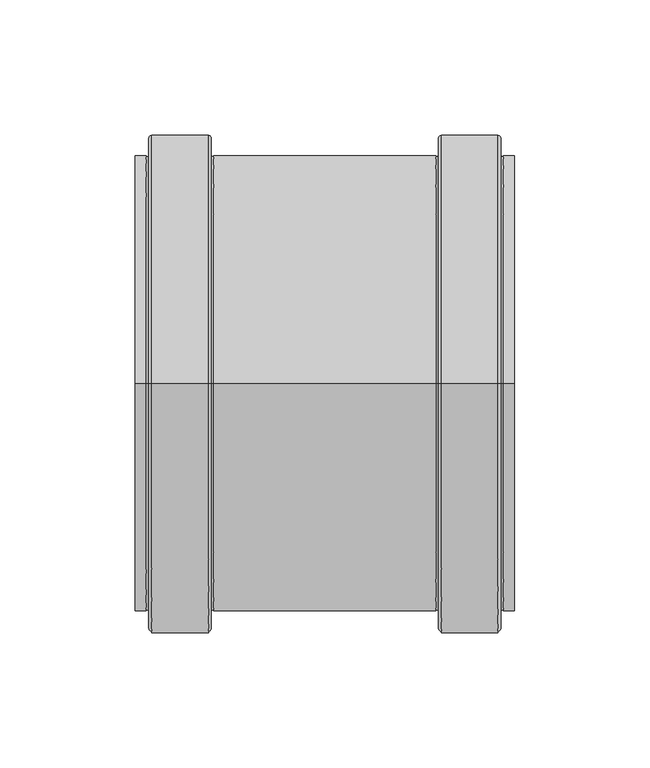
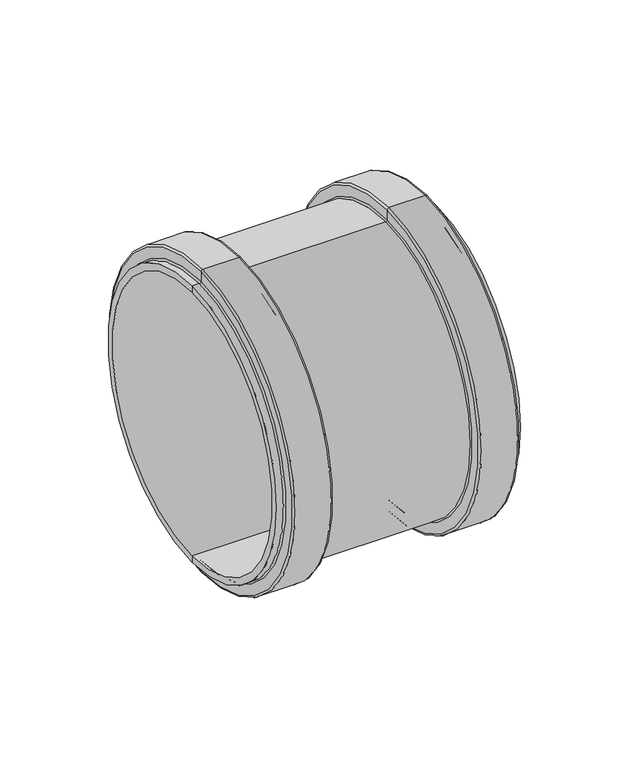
"""IFC4 building model written with IfcOpenShell, lengths in millimetres: pipe fitting geometry, MarleyPlumbingAndDrainage_PipeFitting_dBlueDoubleSocketCoupling_VMD : VMD-160-000-00D - 160mm - Blue."""

from ifc_helpers import new_model, si_unit, point, frame, origin, place, context, project, spatial, polyline, circle_curve, ellipse_curve, trimmed, source, transform, mapped, element, save
from ifc_brep_helpers import plane_surface, cylinder_surface, revolved_surface, advanced_brep


def pipe_fitting_f7358239(model_context):
    return source(origin(), model_context, "Body", "AdvancedBrep", [
        advanced_brep(
        [(-55.8253818, 0.0, -84.0), (-55.8253818, 0.0, 84.0), (26.1746182, 0.0, 84.0), (26.1746182, 0.0, -84.0), (55.1746182, 0.0, -80.0), (55.1746182, 0.0, 80.0), (-84.8253818, 0.0, 80.0), (-84.8253818, 0.0, -80.0), (55.1746182, 0.0, -84.0), (55.1746182, 0.0, 84.0), (51.1746182, 0.0, -84.0), (51.1746182, 0.0, 84.0), (50.1746182, 0.0, -85.0), (50.1746182, 0.0, 85.0), (50.1746182, 0.0, -91.0), (50.1746182, 0.0, 91.0), (49.1746182, 0.0, -92.0), (49.1746182, 0.0, 92.0), (28.1746182, 0.0, -92.0), (28.1746182, 0.0, 92.0), (27.1746182, 0.0, -91.0), (27.1746182, 0.0, 91.0), (27.1746182, 0.0, -85.0), (27.1746182, 0.0, 85.0), (-56.8253818, 0.0, -85.0), (-56.8253818, 0.0, 85.0), (-56.8253818, 0.0, -91.0), (-56.8253818, 0.0, 91.0), (-57.8253818, 0.0, -92.0), (-57.8253818, 0.0, 92.0), (-78.8253818, 0.0, -92.0), (-78.8253818, 0.0, 92.0), (-79.8253818, 0.0, -91.0), (-79.8253818, 0.0, 91.0), (-79.8253818, 0.0, -85.0), (-79.8253818, 0.0, 85.0), (-80.8253818, 0.0, -84.0), (-80.8253818, 0.0, 84.0), (-84.8253818, 0.0, -84.0), (-84.8253818, 0.0, 84.0)],
        [
            (0, 1, circle_curve(frame((-55.8253818, 0.0, 0.0), z_axis=(1.0, 0.0, 0.0), x_axis=(0.0, 0.0, 1.0)), 84.0)),
            (1, 2),
            (2, 3, circle_curve(frame((26.1746182, 0.0, 0.0), z_axis=(-1.0, 0.0, 0.0), x_axis=(0.0, 0.0, 1.0)), 84.0)),
            (3, 0),
            (1, 0, circle_curve(frame((-55.8253818, 0.0, 0.0), z_axis=(1.0, 0.0, 0.0), x_axis=(0.0, 0.0, 1.0)), 84.0)),
            (3, 2, circle_curve(frame((26.1746182, 0.0, 0.0), z_axis=(-1.0, 0.0, 0.0), x_axis=(0.0, 0.0, 1.0)), 84.0)),
            (4, 5, circle_curve(frame((55.1746182, 0.0, 0.0), z_axis=(1.0, 0.0, 0.0), x_axis=(0.0, 0.0, 1.0)), 80.0)),
            (5, 6),
            (6, 7, circle_curve(frame((-84.8253818, 0.0, 0.0), z_axis=(-1.0, 0.0, 0.0), x_axis=(0.0, 0.0, 1.0)), 80.0)),
            (7, 4),
            (5, 4, circle_curve(frame((55.1746182, 0.0, 0.0), z_axis=(1.0, 0.0, 0.0), x_axis=(0.0, 0.0, 1.0)), 80.0)),
            (7, 6, circle_curve(frame((-84.8253818, 0.0, 0.0), z_axis=(-1.0, 0.0, 0.0), x_axis=(0.0, 0.0, 1.0)), 80.0)),
            (8, 9, circle_curve(frame((55.1746182, 0.0, 0.0), z_axis=(1.0, 0.0, 0.0), x_axis=(0.0, 0.0, 1.0)), 84.0)),
            (9, 5),
            (4, 8),
            (9, 8, circle_curve(frame((55.1746182, 0.0, 0.0), z_axis=(1.0, 0.0, 0.0), x_axis=(0.0, 0.0, 1.0)), 84.0)),
            (10, 11, circle_curve(frame((51.1746182, 0.0, 0.0), z_axis=(1.0, 0.0, 0.0), x_axis=(0.0, 0.0, 1.0)), 84.0)),
            (11, 9),
            (8, 10),
            (11, 10, circle_curve(frame((51.1746182, 0.0, 0.0), z_axis=(1.0, 0.0, 0.0), x_axis=(0.0, 0.0, 1.0)), 84.0)),
            (12, 13, circle_curve(frame((50.1746182, 0.0, 0.0), z_axis=(1.0, 0.0, 0.0), x_axis=(0.0, 0.0, 1.0)), 85.0)),
            (13, 11, circle_curve(frame((51.1746182, 0.0, 85.0), z_axis=(0.0, -1.0, 0.0), x_axis=(1.0, 0.0, 0.0)), 1.0)),
            (10, 12, circle_curve(frame((51.1746182, 0.0, -85.0), z_axis=(0.0, -1.0, 0.0), x_axis=(1.0, 0.0, 0.0)), 1.0)),
            (13, 12, circle_curve(frame((50.1746182, 0.0, 0.0), z_axis=(1.0, 0.0, 0.0), x_axis=(0.0, 0.0, 1.0)), 85.0)),
            (14, 15, circle_curve(frame((50.1746182, 0.0, 0.0), z_axis=(1.0, 0.0, 0.0), x_axis=(0.0, 0.0, 1.0)), 91.0)),
            (15, 13),
            (12, 14),
            (15, 14, circle_curve(frame((50.1746182, 0.0, 0.0), z_axis=(1.0, 0.0, 0.0), x_axis=(0.0, 0.0, 1.0)), 91.0)),
            (16, 17, circle_curve(frame((49.1746182, 0.0, 0.0), z_axis=(1.0, 0.0, 0.0), x_axis=(0.0, 0.0, 1.0)), 92.0)),
            (17, 15, circle_curve(frame((49.1746182, 0.0, 91.0), z_axis=(0.0, 1.0, 0.0), x_axis=(1.0, 0.0, 0.0)), 1.0)),
            (14, 16, circle_curve(frame((49.1746182, 0.0, -91.0), z_axis=(0.0, 1.0, 0.0), x_axis=(1.0, 0.0, 0.0)), 1.0)),
            (17, 16, circle_curve(frame((49.1746182, 0.0, 0.0), z_axis=(1.0, 0.0, 0.0), x_axis=(0.0, 0.0, 1.0)), 92.0)),
            (18, 19, circle_curve(frame((28.1746182, 0.0, 0.0), z_axis=(1.0, 0.0, 0.0), x_axis=(0.0, 0.0, 1.0)), 92.0)),
            (19, 17),
            (16, 18),
            (19, 18, circle_curve(frame((28.1746182, 0.0, 0.0), z_axis=(1.0, 0.0, 0.0), x_axis=(0.0, 0.0, 1.0)), 92.0)),
            (20, 21, circle_curve(frame((27.1746182, 0.0, 0.0), z_axis=(1.0, 0.0, 0.0), x_axis=(0.0, 0.0, 1.0)), 91.0)),
            (21, 19, circle_curve(frame((28.1746182, 0.0, 91.0), z_axis=(0.0, 1.0, 0.0), x_axis=(1.0, 0.0, 0.0)), 1.0)),
            (18, 20, circle_curve(frame((28.1746182, 0.0, -91.0), z_axis=(0.0, 1.0, 0.0), x_axis=(1.0, 0.0, 0.0)), 1.0)),
            (21, 20, circle_curve(frame((27.1746182, 0.0, 0.0), z_axis=(1.0, 0.0, 0.0), x_axis=(0.0, 0.0, 1.0)), 91.0)),
            (22, 23, circle_curve(frame((27.1746182, 0.0, 0.0), z_axis=(1.0, 0.0, 0.0), x_axis=(0.0, 0.0, 1.0)), 85.0)),
            (23, 21),
            (20, 22),
            (23, 22, circle_curve(frame((27.1746182, 0.0, 0.0), z_axis=(1.0, 0.0, 0.0), x_axis=(0.0, 0.0, 1.0)), 85.0)),
            (2, 23, circle_curve(frame((26.1746182, 0.0, 85.0), z_axis=(0.0, -1.0, 0.0), x_axis=(1.0, 0.0, 0.0)), 1.0)),
            (22, 3, circle_curve(frame((26.1746182, 0.0, -85.0), z_axis=(0.0, -1.0, 0.0), x_axis=(1.0, 0.0, 0.0)), 1.0)),
            (24, 25, circle_curve(frame((-56.8253818, 0.0, 0.0), z_axis=(1.0, 0.0, 0.0), x_axis=(0.0, 0.0, 1.0)), 85.0)),
            (25, 1, circle_curve(frame((-55.8253818, 0.0, 85.0), z_axis=(0.0, -1.0, 0.0), x_axis=(1.0, 0.0, 0.0)), 1.0)),
            (0, 24, circle_curve(frame((-55.8253818, 0.0, -85.0), z_axis=(0.0, -1.0, 0.0), x_axis=(1.0, 0.0, 0.0)), 1.0)),
            (25, 24, circle_curve(frame((-56.8253818, 0.0, 0.0), z_axis=(1.0, 0.0, 0.0), x_axis=(0.0, 0.0, 1.0)), 85.0)),
            (26, 27, circle_curve(frame((-56.8253818, 0.0, 0.0), z_axis=(1.0, 0.0, 0.0), x_axis=(0.0, 0.0, 1.0)), 91.0)),
            (27, 25),
            (24, 26),
            (27, 26, circle_curve(frame((-56.8253818, 0.0, 0.0), z_axis=(1.0, 0.0, 0.0), x_axis=(0.0, 0.0, 1.0)), 91.0)),
            (28, 29, circle_curve(frame((-57.8253818, 0.0, 0.0), z_axis=(1.0, 0.0, 0.0), x_axis=(0.0, 0.0, 1.0)), 92.0)),
            (29, 27, circle_curve(frame((-57.8253818, 0.0, 91.0), z_axis=(0.0, 1.0, 0.0), x_axis=(1.0, 0.0, 0.0)), 1.0)),
            (26, 28, circle_curve(frame((-57.8253818, 0.0, -91.0), z_axis=(0.0, 1.0, 0.0), x_axis=(1.0, 0.0, 0.0)), 1.0)),
            (29, 28, circle_curve(frame((-57.8253818, 0.0, 0.0), z_axis=(1.0, 0.0, 0.0), x_axis=(0.0, 0.0, 1.0)), 92.0)),
            (30, 31, circle_curve(frame((-78.8253818, 0.0, 0.0), z_axis=(1.0, 0.0, 0.0), x_axis=(0.0, 0.0, 1.0)), 92.0)),
            (31, 29),
            (28, 30),
            (31, 30, circle_curve(frame((-78.8253818, 0.0, 0.0), z_axis=(1.0, 0.0, 0.0), x_axis=(0.0, 0.0, 1.0)), 92.0)),
            (32, 33, circle_curve(frame((-79.8253818, 0.0, 0.0), z_axis=(1.0, 0.0, 0.0), x_axis=(0.0, 0.0, 1.0)), 91.0)),
            (33, 31, circle_curve(frame((-78.8253818, 0.0, 91.0), z_axis=(0.0, 1.0, 0.0), x_axis=(1.0, 0.0, 0.0)), 1.0)),
            (30, 32, circle_curve(frame((-78.8253818, 0.0, -91.0), z_axis=(0.0, 1.0, 0.0), x_axis=(1.0, 0.0, 0.0)), 1.0)),
            (33, 32, circle_curve(frame((-79.8253818, 0.0, 0.0), z_axis=(1.0, 0.0, 0.0), x_axis=(0.0, 0.0, 1.0)), 91.0)),
            (34, 35, circle_curve(frame((-79.8253818, 0.0, 0.0), z_axis=(1.0, 0.0, 0.0), x_axis=(0.0, 0.0, 1.0)), 85.0)),
            (35, 33),
            (32, 34),
            (35, 34, circle_curve(frame((-79.8253818, 0.0, 0.0), z_axis=(1.0, 0.0, 0.0), x_axis=(0.0, 0.0, 1.0)), 85.0)),
            (36, 37, circle_curve(frame((-80.8253818, 0.0, 0.0), z_axis=(1.0, 0.0, 0.0), x_axis=(0.0, 0.0, 1.0)), 84.0)),
            (37, 35, circle_curve(frame((-80.8253818, 0.0, 85.0), z_axis=(0.0, -1.0, 0.0), x_axis=(1.0, 0.0, 0.0)), 1.0)),
            (34, 36, circle_curve(frame((-80.8253818, 0.0, -85.0), z_axis=(0.0, -1.0, 0.0), x_axis=(1.0, 0.0, 0.0)), 1.0)),
            (37, 36, circle_curve(frame((-80.8253818, 0.0, 0.0), z_axis=(1.0, 0.0, 0.0), x_axis=(0.0, 0.0, 1.0)), 84.0)),
            (38, 39, circle_curve(frame((-84.8253818, 0.0, 0.0), z_axis=(1.0, 0.0, 0.0), x_axis=(0.0, 0.0, 1.0)), 84.0)),
            (39, 37),
            (36, 38),
            (39, 38, circle_curve(frame((-84.8253818, 0.0, 0.0), z_axis=(1.0, 0.0, 0.0), x_axis=(0.0, 0.0, 1.0)), 84.0)),
            (6, 39),
            (38, 7),
        ],
        [
            cylinder_surface(frame((-1222.7325039, 0.0, 0.0), z_axis=(-1.0, 0.0, 0.0), x_axis=(0.0, 0.0, 1.0)), 84.0),
            revolved_surface(polyline([(-84.82538180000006, 0.0, 80.0), (55.17461819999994, 0.0, 80.0)]), (-1222.7325039, 0.0, 0.0), (-1.0, 0.0, 0.0)),
            plane_surface(frame((55.1746182, 0.0, 0.0), z_axis=(1.0, 0.0, 0.0), x_axis=(0.0, 0.0, 1.0))),
            revolved_surface(trimmed(ellipse_curve(frame((51.1746182, 0.0, 85.0), z_axis=(0.0, 1.0, 0.0), x_axis=(1.0, 0.0, 0.0)), 1.0, 1.0), [point((51.1746182, 0.0, 84.0))], [point((50.1746182, 0.0, 85.0))], True, "CARTESIAN"), (-1222.7325039, 0.0, 0.0), (-1.0, 0.0, 0.0)),
            plane_surface(frame((50.1746182, 0.0, 0.0), z_axis=(1.0, 0.0, 0.0), x_axis=(0.0, 0.0, 1.0))),
            revolved_surface(trimmed(ellipse_curve(frame((49.1746182, 0.0, 91.0), z_axis=(0.0, -1.0, 0.0), x_axis=(1.0, 0.0, 0.0)), 1.0, 1.0), [point((50.1746182, 0.0, 91.0))], [point((49.1746182, 0.0, 92.0))], True, "CARTESIAN"), (-1222.7325039, 0.0, 0.0), (-1.0, 0.0, 0.0)),
            cylinder_surface(frame((-1222.7325039, 0.0, 0.0), z_axis=(-1.0, 0.0, 0.0), x_axis=(0.0, 0.0, 1.0)), 92.0),
            revolved_surface(trimmed(ellipse_curve(frame((28.1746182, 0.0, 91.0), z_axis=(0.0, -1.0, 0.0), x_axis=(1.0, 0.0, 0.0)), 1.0, 1.0), [point((28.1746182, 0.0, 92.0))], [point((27.1746182, 0.0, 91.0))], True, "CARTESIAN"), (-1222.7325039, 0.0, 0.0), (-1.0, 0.0, 0.0)),
            plane_surface(frame((27.1746182, 0.0, 0.0), z_axis=(-1.0, 0.0, 0.0), x_axis=(0.0, 0.0, 1.0))),
            revolved_surface(trimmed(ellipse_curve(frame((26.1746182, 0.0, 85.0), z_axis=(0.0, 1.0, 0.0), x_axis=(1.0, 0.0, 0.0)), 1.0, 1.0), [point((27.1746182, 0.0, 85.0))], [point((26.1746182, 0.0, 84.0))], True, "CARTESIAN"), (-1222.7325039, 0.0, 0.0), (-1.0, 0.0, 0.0)),
            revolved_surface(trimmed(ellipse_curve(frame((-55.8253818, 0.0, 85.0), z_axis=(0.0, 1.0, 0.0), x_axis=(1.0, 0.0, 0.0)), 1.0, 1.0), [point((-55.8253818, 0.0, 84.0))], [point((-56.8253818, 0.0, 85.0))], True, "CARTESIAN"), (-1222.7325039, 0.0, 0.0), (-1.0, 0.0, 0.0)),
            plane_surface(frame((-56.8253818, 0.0, 0.0), z_axis=(1.0, 0.0, 0.0), x_axis=(0.0, 0.0, 1.0))),
            revolved_surface(trimmed(ellipse_curve(frame((-57.8253818, 0.0, 91.0), z_axis=(0.0, -1.0, 0.0), x_axis=(1.0, 0.0, 0.0)), 1.0, 1.0), [point((-56.8253818, 0.0, 91.0))], [point((-57.8253818, 0.0, 92.0))], True, "CARTESIAN"), (-1222.7325039, 0.0, 0.0), (-1.0, 0.0, 0.0)),
            revolved_surface(trimmed(ellipse_curve(frame((-78.8253818, 0.0, 91.0), z_axis=(0.0, -1.0, 0.0), x_axis=(1.0, 0.0, 0.0)), 1.0, 1.0), [point((-78.8253818, 0.0, 92.0))], [point((-79.8253818, 0.0, 91.0))], True, "CARTESIAN"), (-1222.7325039, 0.0, 0.0), (-1.0, 0.0, 0.0)),
            plane_surface(frame((-79.8253818, 0.0, 0.0), z_axis=(-1.0, 0.0, 0.0), x_axis=(0.0, 0.0, 1.0))),
            revolved_surface(trimmed(ellipse_curve(frame((-80.8253818, 0.0, 85.0), z_axis=(0.0, 1.0, 0.0), x_axis=(1.0, 0.0, 0.0)), 1.0, 1.0), [point((-79.8253818, 0.0, 85.0))], [point((-80.8253818, 0.0, 84.0))], True, "CARTESIAN"), (-1222.7325039, 0.0, 0.0), (-1.0, 0.0, 0.0)),
            plane_surface(frame((-84.8253818, 0.0, 0.0), z_axis=(-1.0, 0.0, 0.0), x_axis=(0.0, 0.0, 1.0))),
        ],
        [
            (0, [[1, 2, 3, 4]]),
            (0, [[5, -4, 6, -2]]),
            (1, [[7, 8, 9, 10]]),
            (1, [[11, -10, 12, -8]]),
            (2, [[13, 14, -7, 15]]),
            (2, [[16, -15, -11, -14]]),
            (0, [[17, 18, -13, 19]]),
            (0, [[20, -19, -16, -18]]),
            (3, [[21, 22, -17, 23]]),
            (3, [[24, -23, -20, -22]]),
            (4, [[25, 26, -21, 27]]),
            (4, [[28, -27, -24, -26]]),
            (5, [[29, 30, -25, 31]]),
            (5, [[32, -31, -28, -30]]),
            (6, [[33, 34, -29, 35]]),
            (6, [[36, -35, -32, -34]]),
            (7, [[37, 38, -33, 39]]),
            (7, [[40, -39, -36, -38]]),
            (8, [[41, 42, -37, 43]]),
            (8, [[44, -43, -40, -42]]),
            (9, [[-3, 45, -41, 46]]),
            (9, [[-6, -46, -44, -45]]),
            (10, [[47, 48, -1, 49]]),
            (10, [[50, -49, -5, -48]]),
            (11, [[51, 52, -47, 53]]),
            (11, [[54, -53, -50, -52]]),
            (12, [[55, 56, -51, 57]]),
            (12, [[58, -57, -54, -56]]),
            (6, [[59, 60, -55, 61]]),
            (6, [[62, -61, -58, -60]]),
            (13, [[63, 64, -59, 65]]),
            (13, [[66, -65, -62, -64]]),
            (14, [[67, 68, -63, 69]]),
            (14, [[70, -69, -66, -68]]),
            (15, [[71, 72, -67, 73]]),
            (15, [[74, -73, -70, -72]]),
            (0, [[75, 76, -71, 77]]),
            (0, [[78, -77, -74, -76]]),
            (16, [[-9, 79, -75, 80]]),
            (16, [[-12, -80, -78, -79]]),
        ],
    ),
        advanced_brep(
        [(-7.4920485, 76.0, 0.0), (-7.4920485, -76.0, 0.0), (-7.4920485, -80.0, 0.0), (-7.4920485, 80.0, 0.0), (-11.1587152, 76.0, 0.0), (-11.1587152, -76.0, 0.0), (-11.1587152, 80.0, 0.0), (-11.1587152, -80.0, 0.0)],
        [
            (0, 1, circle_curve(frame((-7.4920485, 0.0, 0.0), z_axis=(-1.0, 0.0, 0.0), x_axis=(0.0, -1.0, 0.0)), 76.0)),
            (1, 2),
            (2, 3, circle_curve(frame((-7.4920485, 0.0, 0.0), z_axis=(1.0, 0.0, 0.0), x_axis=(0.0, -1.0, 0.0)), 80.0)),
            (3, 0),
            (1, 0, circle_curve(frame((-7.4920485, 0.0, 0.0), z_axis=(-1.0, 0.0, 0.0), x_axis=(0.0, -1.0, 0.0)), 76.0)),
            (3, 2, circle_curve(frame((-7.4920485, 0.0, 0.0), z_axis=(1.0, 0.0, 0.0), x_axis=(0.0, -1.0, 0.0)), 80.0)),
            (4, 5, circle_curve(frame((-11.1587152, 0.0, 0.0), z_axis=(-1.0, 0.0, 0.0), x_axis=(0.0, -1.0, 0.0)), 76.0)),
            (5, 1),
            (0, 4),
            (5, 4, circle_curve(frame((-11.1587152, 0.0, 0.0), z_axis=(-1.0, 0.0, 0.0), x_axis=(0.0, -1.0, 0.0)), 76.0)),
            (6, 7, circle_curve(frame((-11.1587152, 0.0, 0.0), z_axis=(-1.0, 0.0, 0.0), x_axis=(0.0, -1.0, 0.0)), 80.0)),
            (7, 5),
            (4, 6),
            (7, 6, circle_curve(frame((-11.1587152, 0.0, 0.0), z_axis=(-1.0, 0.0, 0.0), x_axis=(0.0, -1.0, 0.0)), 80.0)),
            (2, 7),
            (6, 3),
        ],
        [
            plane_surface(frame((-7.4920485, 0.0, 0.0), z_axis=(1.0, 0.0, 0.0), x_axis=(0.0, -1.0, 0.0))),
            revolved_surface(polyline([(-7.49204850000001, -76.0, 0.0), (-11.158715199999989, -76.0, 0.0)]), (-149.8253818, 0.0, 0.0), (1.0, 0.0, 0.0)),
            plane_surface(frame((-11.1587152, 0.0, 0.0), z_axis=(-1.0, 0.0, 0.0), x_axis=(0.0, -1.0, 0.0))),
            cylinder_surface(frame((-149.8253818, 0.0, 0.0), z_axis=(1.0, 0.0, 0.0), x_axis=(0.0, -1.0, 0.0)), 80.0),
        ],
        [
            (0, [[1, 2, 3, 4]]),
            (0, [[5, -4, 6, -2]]),
            (1, [[7, 8, -1, 9]]),
            (1, [[10, -9, -5, -8]]),
            (2, [[11, 12, -7, 13]]),
            (2, [[14, -13, -10, -12]]),
            (3, [[-3, 15, -11, 16]]),
            (3, [[-6, -16, -14, -15]]),
        ],
    ),
    ])


if __name__ == "__main__":
    model = new_model("IFC4")
    model_context = context("Model", 3, world=origin())
    ifc_project = project(units=[si_unit("LENGTHUNIT", "METRE", prefix="MILLI")], contexts=[model_context])
    site = spatial("IfcSite", under=ifc_project)
    building = spatial("IfcBuilding", under=site)
    placement = place(None, origin())
    pipe_fitting_shape = pipe_fitting_f7358239(model_context)
    element("IfcPipeFitting", 1, ObjectType="MarleyPlumbingAndDrainage_PipeFitting_dBlueDoubleSocketCoupling_VMD : VMD-160-000-00D - 160mm - Blue", at=placement, inside=building, context=model_context, shape_type="MappedRepresentation", body=[
        mapped(pipe_fitting_shape, transform((0.0, 0.0, 0.0), x_axis=(1.0, 0.0, 0.0), y_axis=(0.0, 1.0, 0.0), z_axis=(0.0, 0.0, 1.0))),
    ])
    save(model, "model.ifc")
